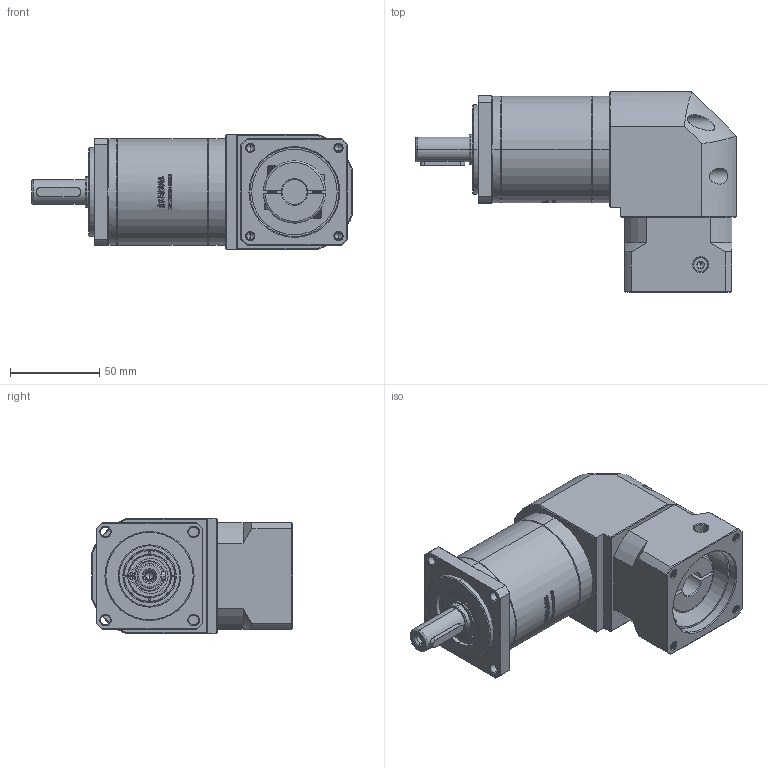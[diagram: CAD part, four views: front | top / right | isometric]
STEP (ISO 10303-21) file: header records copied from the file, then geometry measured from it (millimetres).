
FILE_DESCRIPTION (( 'STEP AP214' ), '1' );
FILE_NAME ('ZFR60-D14-L2-14-50-70-M5.STEP', '2022-04-20T09:03:45', ( '' ), ( 'Microsoft' ), 'SwSTEP 2.0', 'SolidWorks 2016', '' );
FILE_SCHEMA (( 'AUTOMOTIVE_DESIGN' ));
Length unit declared in the file: millimetre
Products named in the file (1): ZFR60-D14-L2-14-50-70-M5
Bounding box: 180 x 112.7 x 65 mm (x, y, z)
Volume: 585904.8 mm3; surface area: 82099.8 mm2
Topology: 5 solids, 6 shells, 2692 faces, 7316 edges, 4761 vertices
Faces by surface type: plane 1397, bspline 591, cylinder 402, cone 288, torus 14
Entity records: 149284 total; most frequent: CARTESIAN_POINT 57450, ORIENTED_EDGE 14588, DIRECTION 10444, EDGE_CURVE 7294, VERTEX_POINT 4761, VECTOR 4396, LINE 4396, AXIS2_PLACEMENT_3D 3024
